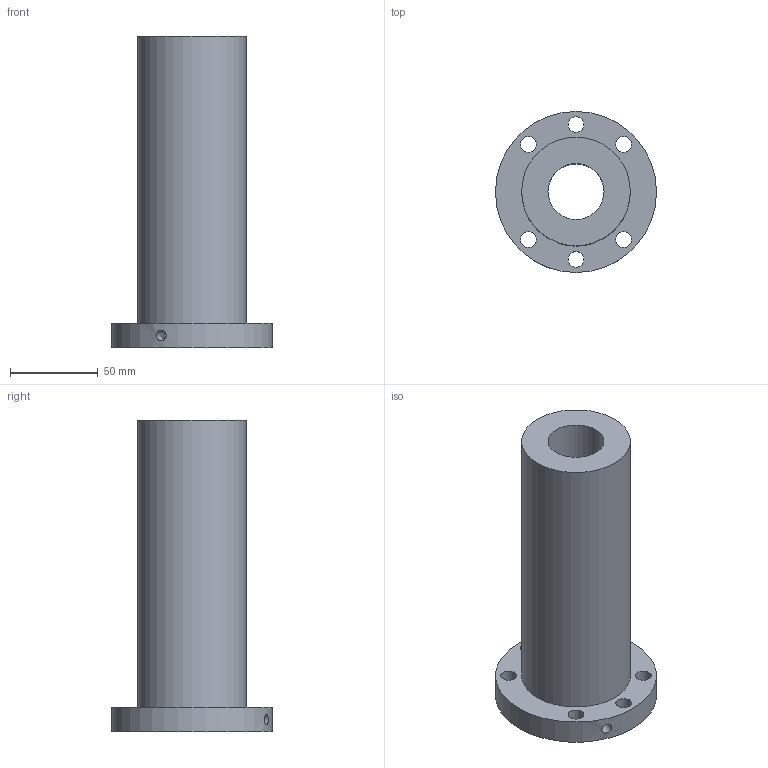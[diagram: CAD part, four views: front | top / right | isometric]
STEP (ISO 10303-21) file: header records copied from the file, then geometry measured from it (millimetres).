
FILE_DESCRIPTION(/* description */ (''),/* implementation_level */ '2;1');
FILE_NAME(/* name */ '32-20K3_635',/* time_stamp */ '2007-10-15T12:54:00+08:00',/* author */ (''),/* organization */ (''),/* preprocessor_version */ 'ST-DEVELOPER v11',/* originating_system */ 'UGS - NX 5.0',/* authorisation */ '');
FILE_SCHEMA (('CONFIG_CONTROL_DESIGN'));
Length unit declared in the file: millimetre
Products named in the file (1): 32-20K3_635
Bounding box: 92 x 92 x 178 mm (x, y, z)
Volume: 439192.1 mm3; surface area: 67584.9 mm2
Topology: 1 solids, 1 shells, 15 faces, 34 edges, 23 vertices
Faces by surface type: cylinder 11, plane 4
Full cylindrical faces by diameter (mm): 4 x1, 6 x1, 9 x6, 32 x1, 62 x1, 92 x1
Entity records: 600 total; most frequent: CARTESIAN_POINT 174, DIRECTION 72, FACE_BOUND 44, EDGE_LOOP 44, ORIENTED_EDGE 44, AXIS2_PLACEMENT_3D 36, VERTEX_POINT 22, EDGE_CURVE 22
